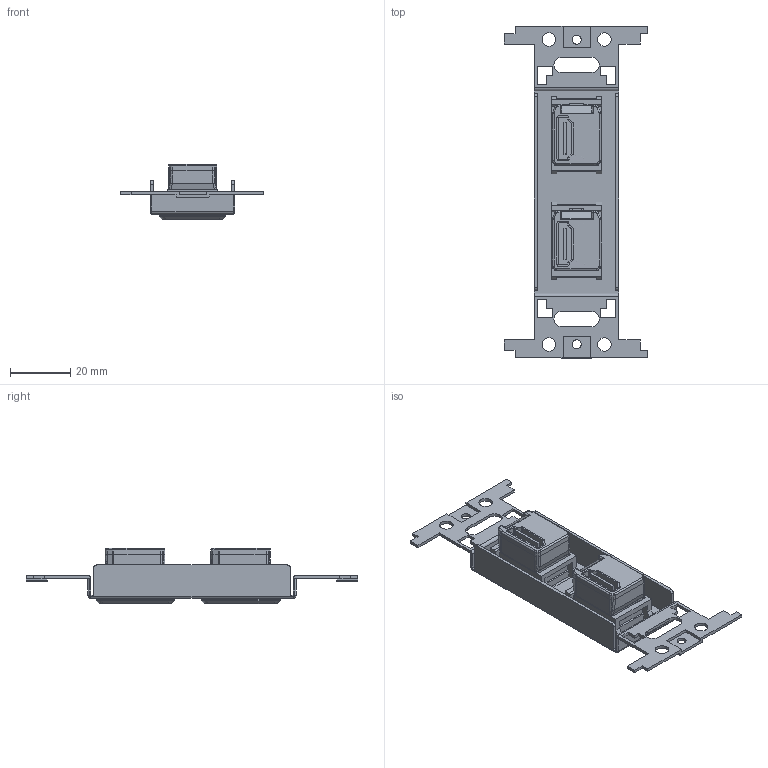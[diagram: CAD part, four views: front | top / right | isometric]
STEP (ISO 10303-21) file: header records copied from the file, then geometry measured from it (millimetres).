
FILE_DESCRIPTION(('FreeCAD Model'),'2;1');
FILE_NAME('Open CASCADE Shape Model','2026-09-14T10:20:51',(''),(''), 'Open CASCADE STEP processor 7.8','FreeCAD','Unknown');
FILE_SCHEMA(('AUTOMOTIVE_DESIGN { 1 0 10303 214 1 1 1 1 }'));
Length unit declared in the file: millimetre
Products named in the file (7): CMW_2SIHDMI_XX; 210HD06G2xx_SD; P_200796_XX; P-200796; 3013BUS12xx-1; 3013BUS12xx-2; 210HD06G2xx_SD001
Assembly tree (6 placements, depth 3):
  CMW_2SIHDMI_XX
    210HD06G2xx_SD
    P_200796_XX
      P-200796
      3013BUS12xx-1
      3013BUS12xx-2
    210HD06G2xx_SD001
Bounding box: 47.6 x 110 x 18.3 mm (x, y, z)
Volume: 14293.4 mm3; surface area: 17863.9 mm2
Topology: 5 solids, 5 shells, 616 faces, 1720 edges, 1120 vertices
Faces by surface type: bspline 492, plane 92, cylinder 28, torus 4
Full cylindrical faces by diameter (mm): 3 x2, 4.5 x4
Entity records: 27894 total; most frequent: CARTESIAN_POINT 16174, ORIENTED_EDGE 3444, EDGE_CURVE 1720, B_SPLINE_CURVE_WITH_KNOTS 1357, VERTEX_POINT 1120, DIRECTION 681, FACE_BOUND 664, EDGE_LOOP 664
